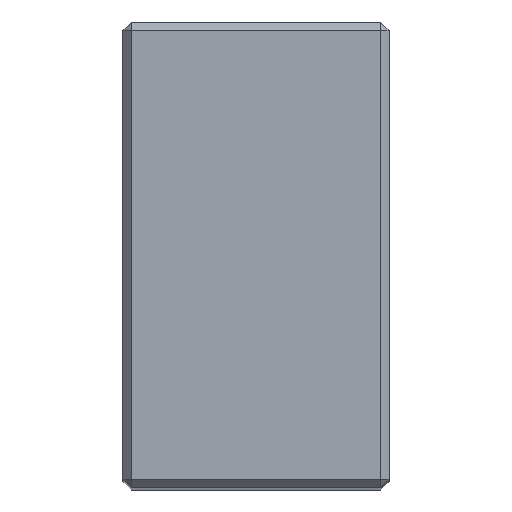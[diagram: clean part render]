
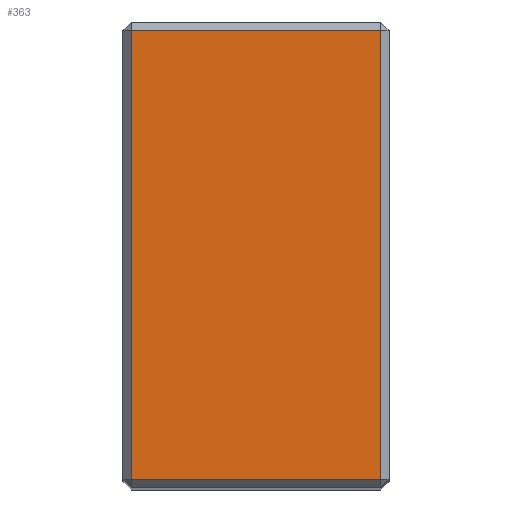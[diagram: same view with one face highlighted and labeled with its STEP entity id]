
A CAD part, top view. The second image highlights one B-rep face of the part: STEP entity #363.
In plain terms, the highlighted planar face has unit normal (0, 0, 1).
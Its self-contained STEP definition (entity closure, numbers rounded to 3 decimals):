
#13 = CARTESIAN_POINT ( 'NONE',  ( 15., 55., 78. ) ) ;
#49 = ORIENTED_EDGE ( 'NONE', *, *, #400, .T. ) ;
#58 = FACE_OUTER_BOUND ( 'NONE', #260, .T. ) ;
#74 = LINE ( 'NONE', #265, #433 ) ;
#75 = CARTESIAN_POINT ( 'NONE',  ( -16., 55., 78. ) ) ;
#78 = VECTOR ( 'NONE', #266, 1000. ) ;
#109 = VERTEX_POINT ( 'NONE', #352 ) ;
#151 = CARTESIAN_POINT ( 'NONE',  ( -15., 55., 78. ) ) ;
#173 = ORIENTED_EDGE ( 'NONE', *, *, #409, .T. ) ;
#214 = CARTESIAN_POINT ( 'NONE',  ( 15., 1., 78. ) ) ;
#228 = ORIENTED_EDGE ( 'NONE', *, *, #285, .T. ) ;
#249 = DIRECTION ( 'NONE',  ( 0., 0., -1. ) ) ;
#260 = EDGE_LOOP ( 'NONE', ( #173, #294, #228, #49 ) ) ;
#265 = CARTESIAN_POINT ( 'NONE',  ( 15., 56., 78. ) ) ;
#266 = DIRECTION ( 'NONE',  ( -1., 0., 0. ) ) ;
#285 = EDGE_CURVE ( 'NONE', #109, #549, #441, .T. ) ;
#294 = ORIENTED_EDGE ( 'NONE', *, *, #540, .T. ) ;
#305 = CARTESIAN_POINT ( 'NONE',  ( 16., 56., 78. ) ) ;
#352 = CARTESIAN_POINT ( 'NONE',  ( -15., 1., 78. ) ) ;
#361 = VERTEX_POINT ( 'NONE', #151 ) ;
#363 = ADVANCED_FACE ( 'NONE', ( #58 ), #560, .F. ) ;
#365 = VERTEX_POINT ( 'NONE', #13 ) ;
#400 = EDGE_CURVE ( 'NONE', #549, #365, #74, .T. ) ;
#405 = AXIS2_PLACEMENT_3D ( 'NONE', #305, #249, #615 ) ;
#409 = EDGE_CURVE ( 'NONE', #365, #361, #466, .T. ) ;
#432 = VECTOR ( 'NONE', #588, 1000. ) ;
#433 = VECTOR ( 'NONE', #481, 1000. ) ;
#441 = LINE ( 'NONE', #453, #574 ) ;
#453 = CARTESIAN_POINT ( 'NONE',  ( 16., 1., 78. ) ) ;
#466 = LINE ( 'NONE', #75, #78 ) ;
#481 = DIRECTION ( 'NONE',  ( 0., 1., 0. ) ) ;
#490 = CARTESIAN_POINT ( 'NONE',  ( -15., 56., 78. ) ) ;
#540 = EDGE_CURVE ( 'NONE', #361, #109, #577, .T. ) ;
#549 = VERTEX_POINT ( 'NONE', #214 ) ;
#560 = PLANE ( 'NONE',  #405 ) ;
#574 = VECTOR ( 'NONE', #597, 1000. ) ;
#577 = LINE ( 'NONE', #490, #432 ) ;
#588 = DIRECTION ( 'NONE',  ( 0., -1., 0. ) ) ;
#597 = DIRECTION ( 'NONE',  ( 1., 0., 0. ) ) ;
#615 = DIRECTION ( 'NONE',  ( -1., 0., 0. ) ) ;
